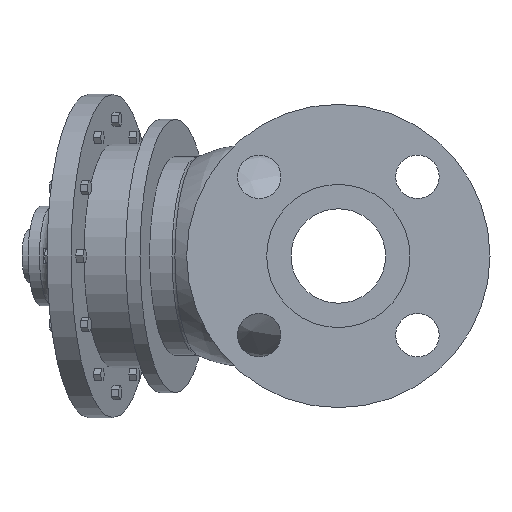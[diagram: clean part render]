
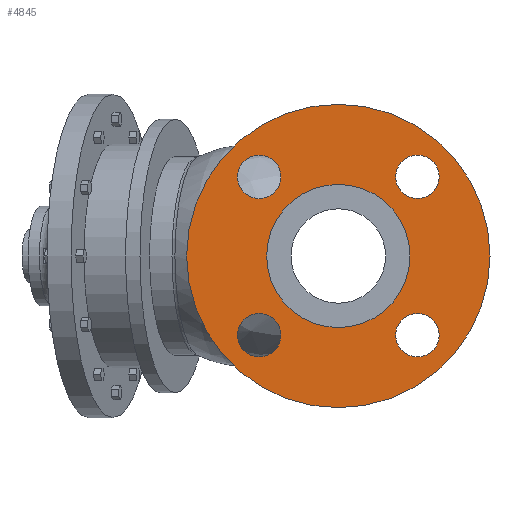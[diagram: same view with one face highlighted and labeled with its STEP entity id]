
A CAD part, left-side view. The second image highlights one B-rep face of the part: STEP entity #4845.
In plain terms, the highlighted planar face has unit normal (-1, 0, 0).
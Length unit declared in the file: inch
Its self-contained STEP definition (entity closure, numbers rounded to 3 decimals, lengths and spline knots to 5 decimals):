
#246=PLANE('',#5191);
#293=FACE_BOUND('',#895,.T.);
#294=FACE_BOUND('',#896,.T.);
#295=FACE_BOUND('',#897,.T.);
#296=FACE_BOUND('',#898,.T.);
#297=FACE_BOUND('',#899,.T.);
#605=FACE_OUTER_BOUND('',#894,.T.);
#894=EDGE_LOOP('',(#4273,#4274));
#895=EDGE_LOOP('',(#4275));
#896=EDGE_LOOP('',(#4276));
#897=EDGE_LOOP('',(#4277));
#898=EDGE_LOOP('',(#4278));
#899=EDGE_LOOP('',(#4279,#4280));
#1903=CIRCLE('',#4874,0.4375);
#1905=CIRCLE('',#4877,0.4375);
#1907=CIRCLE('',#4880,0.4375);
#1909=CIRCLE('',#4883,0.4375);
#1989=CIRCLE('',#5189,1.44);
#1990=CIRCLE('',#5190,1.44);
#1991=CIRCLE('',#5192,3.05);
#1992=CIRCLE('',#5193,3.05);
#2003=VERTEX_POINT('',#6420);
#2005=VERTEX_POINT('',#6426);
#2007=VERTEX_POINT('',#6432);
#2009=VERTEX_POINT('',#6438);
#2420=VERTEX_POINT('',#8847);
#2421=VERTEX_POINT('',#8848);
#2422=VERTEX_POINT('',#8853);
#2423=VERTEX_POINT('',#8854);
#2434=EDGE_CURVE('',#2003,#2003,#1903,.T.);
#2437=EDGE_CURVE('',#2005,#2005,#1905,.T.);
#2440=EDGE_CURVE('',#2007,#2007,#1907,.T.);
#2443=EDGE_CURVE('',#2009,#2009,#1909,.T.);
#3047=EDGE_CURVE('',#2420,#2421,#1989,.T.);
#3048=EDGE_CURVE('',#2421,#2420,#1990,.T.);
#3050=EDGE_CURVE('',#2422,#2423,#1991,.T.);
#3051=EDGE_CURVE('',#2423,#2422,#1992,.T.);
#4273=ORIENTED_EDGE('',*,*,#3050,.F.);
#4274=ORIENTED_EDGE('',*,*,#3051,.F.);
#4275=ORIENTED_EDGE('',*,*,#2434,.T.);
#4276=ORIENTED_EDGE('',*,*,#2437,.T.);
#4277=ORIENTED_EDGE('',*,*,#2440,.T.);
#4278=ORIENTED_EDGE('',*,*,#2443,.T.);
#4279=ORIENTED_EDGE('',*,*,#3047,.T.);
#4280=ORIENTED_EDGE('',*,*,#3048,.T.);
#4845=ADVANCED_FACE('',(#605,#293,#294,#295,#296,#297),#246,.T.);
#4874=AXIS2_PLACEMENT_3D('',#6421,#5228,#5229);
#4877=AXIS2_PLACEMENT_3D('',#6427,#5235,#5236);
#4880=AXIS2_PLACEMENT_3D('',#6433,#5242,#5243);
#4883=AXIS2_PLACEMENT_3D('',#6439,#5249,#5250);
#5189=AXIS2_PLACEMENT_3D('',#8849,#6344,#6345);
#5190=AXIS2_PLACEMENT_3D('',#8850,#6346,#6347);
#5191=AXIS2_PLACEMENT_3D('',#8852,#6349,#6350);
#5192=AXIS2_PLACEMENT_3D('',#8855,#6351,#6352);
#5193=AXIS2_PLACEMENT_3D('',#8856,#6353,#6354);
#5228=DIRECTION('center_axis',(1.,0.,0.));
#5229=DIRECTION('ref_axis',(0.,1.,0.));
#5235=DIRECTION('center_axis',(1.,0.,0.));
#5236=DIRECTION('ref_axis',(0.,0.,-1.));
#5242=DIRECTION('center_axis',(1.,0.,0.));
#5243=DIRECTION('ref_axis',(0.,-1.,0.));
#5249=DIRECTION('center_axis',(1.,0.,0.));
#5250=DIRECTION('ref_axis',(0.,0.,1.));
#6344=DIRECTION('center_axis',(1.,0.,0.));
#6345=DIRECTION('ref_axis',(0.,0.,-1.));
#6346=DIRECTION('center_axis',(1.,0.,0.));
#6347=DIRECTION('ref_axis',(0.,0.,-1.));
#6349=DIRECTION('center_axis',(-1.,0.,0.));
#6350=DIRECTION('ref_axis',(0.,0.,1.));
#6351=DIRECTION('center_axis',(1.,0.,0.));
#6352=DIRECTION('ref_axis',(0.,0.,-1.));
#6353=DIRECTION('center_axis',(1.,0.,0.));
#6354=DIRECTION('ref_axis',(0.,0.,-1.));
#6420=CARTESIAN_POINT('',(-3.975,-2.02849,-1.59099));
#6421=CARTESIAN_POINT('Origin',(-3.975,-1.59099,-1.59099));
#6426=CARTESIAN_POINT('',(-3.975,-1.59099,2.02849));
#6427=CARTESIAN_POINT('Origin',(-3.975,-1.59099,1.59099));
#6432=CARTESIAN_POINT('',(-3.975,2.02849,1.59099));
#6433=CARTESIAN_POINT('Origin',(-3.975,1.59099,1.59099));
#6438=CARTESIAN_POINT('',(-3.975,1.59099,-2.02849));
#6439=CARTESIAN_POINT('Origin',(-3.975,1.59099,-1.59099));
#8847=CARTESIAN_POINT('',(-3.975,1.44,0.));
#8848=CARTESIAN_POINT('',(-3.975,-1.44,0.));
#8849=CARTESIAN_POINT('Origin',(-3.975,0.,0.));
#8850=CARTESIAN_POINT('Origin',(-3.975,0.,0.));
#8852=CARTESIAN_POINT('Origin',(-3.975,3.05,0.));
#8853=CARTESIAN_POINT('',(-3.975,3.05,0.));
#8854=CARTESIAN_POINT('',(-3.975,-3.05,0.));
#8855=CARTESIAN_POINT('Origin',(-3.975,0.,0.));
#8856=CARTESIAN_POINT('Origin',(-3.975,0.,0.));
